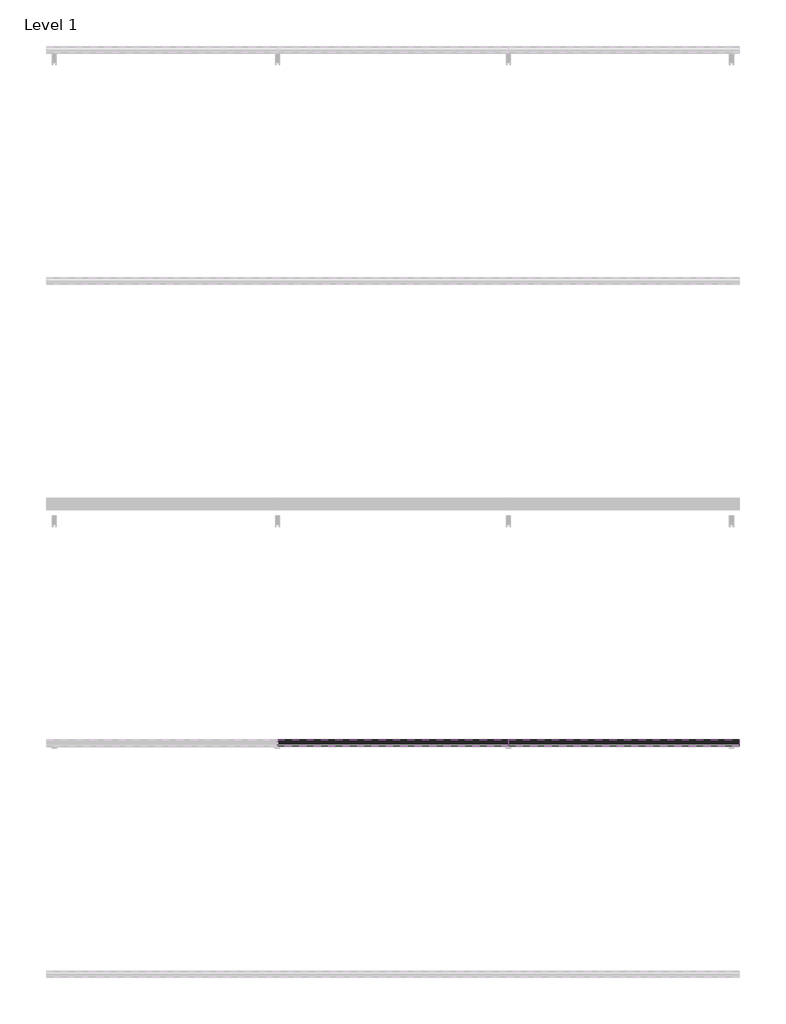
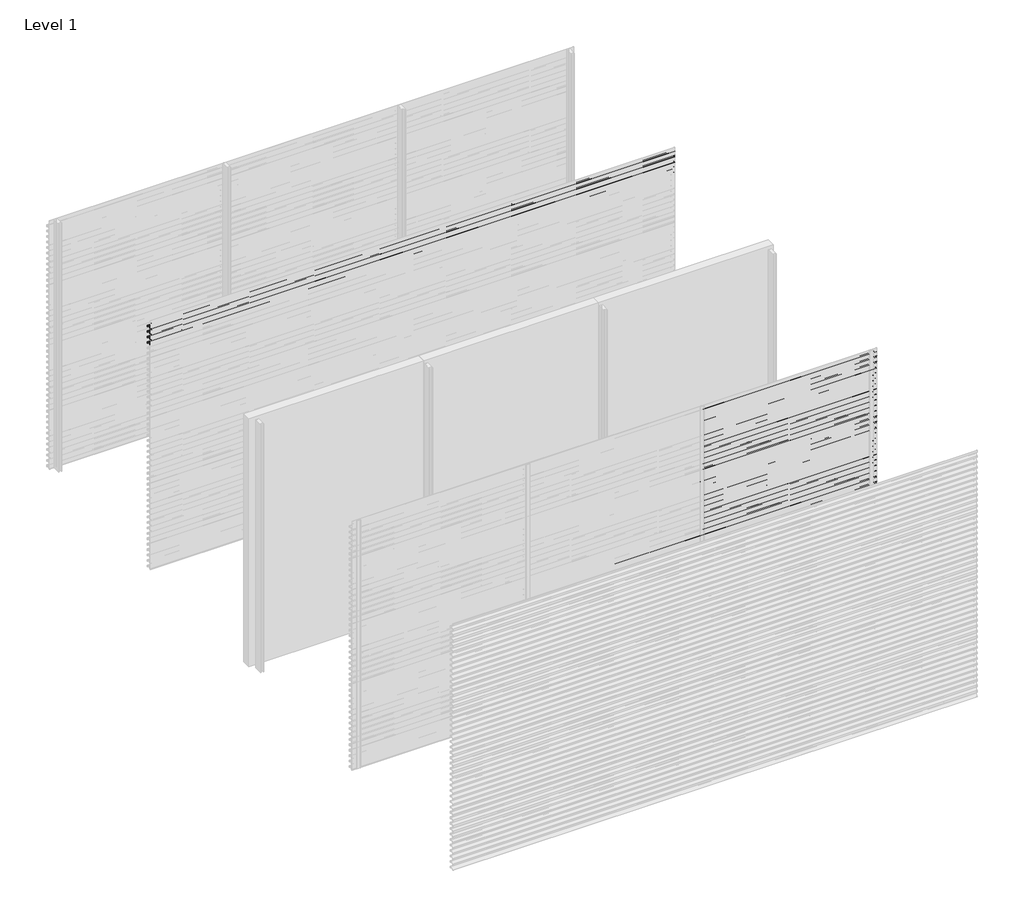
# One storey, part 17 of 27: 71 proxies.
"""IFC4 building model written with IfcOpenShell, lengths in millimetres."""

from ifc_helpers import new_model, si_unit, frame, origin, place, context, project, spatial, polyline, outline, extrude, element, save

model = new_model("IFC4")

# Units and contexts
model_context = context("Model", 3, world=origin())
ifc_project = project(units=[si_unit("LENGTHUNIT", "METRE", prefix="MILLI")], contexts=[model_context])

# Site, building, storey
site = spatial("IfcSite", under=ifc_project)
building = spatial("IfcBuilding", under=site)
storey = spatial("IfcBuildingStorey", under=building, Name="Level 1", Elevation=0.0)

# Proxies
placement = place(None, origin())
element("IfcBuildingElementProxy", 1, Name="Wall Sweeps", at=placement, inside=storey, context=model_context, shape_type="SweptSolid", body=[
    extrude(outline(polyline([(-19943.0, 2913.2), (-19943.0, 2893.5), (-19944.25, 2894.5866084), (-19944.25, 2912.4872415), (-19963.0322086, 2925.6010889), (-19995.1332975, 2893.5), (-19996.0525363, 2894.4192388), (-19964.1148087, 2926.3569665), (-19998.0, 2950.0158044), (-19998.0, 2970.0), (-19996.75, 2970.0), (-19996.75, 2950.7285629), (-19943.0, 2913.2)])), frame((0.0, 0.0, 0.0), z_axis=(1.0, 0.0, 0.0), x_axis=(0.0, 1.0, 0.0)), (0.0, 0.0, 1.0), 6000.0),
])
element("IfcBuildingElementProxy", 2, Name="Wall Sweeps", at=placement, inside=storey, context=model_context, shape_type="SweptSolid", body=[
    extrude(outline(polyline([(-19943.0, 2847.2), (-19943.0, 2827.5), (-19944.25, 2828.5866084), (-19944.25, 2846.4872415), (-19963.0322086, 2859.6010889), (-19995.1332975, 2827.5), (-19996.0525363, 2828.4192388), (-19964.1148087, 2860.3569665), (-19998.0, 2884.0158044), (-19998.0, 2904.0), (-19996.75, 2904.0), (-19996.75, 2884.7285629), (-19943.0, 2847.2)])), frame((0.0, 0.0, 0.0), z_axis=(1.0, 0.0, 0.0), x_axis=(0.0, 1.0, 0.0)), (0.0, 0.0, 1.0), 6000.0),
])
element("IfcBuildingElementProxy", 3, Name="Wall Sweeps", at=placement, inside=storey, context=model_context, shape_type="SweptSolid", body=[
    extrude(outline(polyline([(-19943.0, 2781.2), (-19943.0, 2761.5), (-19944.25, 2762.5866084), (-19944.25, 2780.4872415), (-19963.0322086, 2793.6010889), (-19995.1332975, 2761.5), (-19996.0525363, 2762.4192388), (-19964.1148087, 2794.3569665), (-19998.0, 2818.0158044), (-19998.0, 2838.0), (-19996.75, 2838.0), (-19996.75, 2818.7285629), (-19943.0, 2781.2)])), frame((0.0, 0.0, 0.0), z_axis=(1.0, 0.0, 0.0), x_axis=(0.0, 1.0, 0.0)), (0.0, 0.0, 1.0), 6000.0),
])
element("IfcBuildingElementProxy", 4, Name="Wall Sweeps", at=placement, inside=storey, context=model_context, shape_type="SweptSolid", body=[
    extrude(outline(polyline([(-19943.0, 2715.2), (-19943.0, 2695.5), (-19944.25, 2696.5866084), (-19944.25, 2714.4872415), (-19963.0322086, 2727.6010889), (-19995.1332975, 2695.5), (-19996.0525363, 2696.4192388), (-19964.1148087, 2728.3569665), (-19998.0, 2752.0158044), (-19998.0, 2772.0), (-19996.75, 2772.0), (-19996.75, 2752.7285629), (-19943.0, 2715.2)])), frame((0.0, 0.0, 0.0), z_axis=(1.0, 0.0, 0.0), x_axis=(0.0, 1.0, 0.0)), (0.0, 0.0, 1.0), 6000.0),
])
element("IfcBuildingElementProxy", 5, Name="Wall Sweeps", at=placement, inside=storey, context=model_context, shape_type="SweptSolid", body=[
    extrude(outline(polyline([(-23943.0, 1395.2), (-23943.0, 1375.5), (-23944.25, 1376.5866084), (-23944.25, 1394.4872415), (-23963.0322086, 1407.6010889), (-23995.1332975, 1375.5), (-23996.0525363, 1376.4192388), (-23964.1148087, 1408.3569665), (-23998.0, 1432.0158044), (-23998.0, 1452.0), (-23996.75, 1452.0), (-23996.75, 1432.7285629), (-23943.0, 1395.2)])), frame((2000.0, 0.0, 0.0), z_axis=(1.0, 0.0, 0.0), x_axis=(0.0, 1.0, 0.0)), (0.0, 0.0, 1.0), 2000.0),
])
element("IfcBuildingElementProxy", 6, Name="Wall Sweeps", at=placement, inside=storey, context=model_context, shape_type="SweptSolid", body=[
    extrude(outline(polyline([(-23943.0, 1329.2), (-23943.0, 1309.5), (-23944.25, 1310.5866084), (-23944.25, 1328.4872415), (-23963.0322086, 1341.6010889), (-23995.1332975, 1309.5), (-23996.0525363, 1310.4192388), (-23964.1148087, 1342.3569665), (-23998.0, 1366.0158044), (-23998.0, 1386.0), (-23996.75, 1386.0), (-23996.75, 1366.7285629), (-23943.0, 1329.2)])), frame((2000.0, 0.0, 0.0), z_axis=(1.0, 0.0, 0.0), x_axis=(0.0, 1.0, 0.0)), (0.0, 0.0, 1.0), 2000.0),
])
element("IfcBuildingElementProxy", 7, Name="Wall Sweeps", at=placement, inside=storey, context=model_context, shape_type="SweptSolid", body=[
    extrude(outline(polyline([(-23943.0, 1263.2), (-23943.0, 1243.5), (-23944.25, 1244.5866084), (-23944.25, 1262.4872415), (-23963.0322086, 1275.6010889), (-23995.1332975, 1243.5), (-23996.0525363, 1244.4192388), (-23964.1148087, 1276.3569665), (-23998.0, 1300.0158044), (-23998.0, 1320.0), (-23996.75, 1320.0), (-23996.75, 1300.7285629), (-23943.0, 1263.2)])), frame((2000.0, 0.0, 0.0), z_axis=(1.0, 0.0, 0.0), x_axis=(0.0, 1.0, 0.0)), (0.0, 0.0, 1.0), 2000.0),
])
element("IfcBuildingElementProxy", 8, Name="Wall Sweeps", at=placement, inside=storey, context=model_context, shape_type="SweptSolid", body=[
    extrude(outline(polyline([(-23943.0, 1197.2), (-23943.0, 1177.5), (-23944.25, 1178.5866084), (-23944.25, 1196.4872415), (-23963.0322086, 1209.6010889), (-23995.1332975, 1177.5), (-23996.0525363, 1178.4192388), (-23964.1148087, 1210.3569665), (-23998.0, 1234.0158044), (-23998.0, 1254.0), (-23996.75, 1254.0), (-23996.75, 1234.7285629), (-23943.0, 1197.2)])), frame((2000.0, 0.0, 0.0), z_axis=(1.0, 0.0, 0.0), x_axis=(0.0, 1.0, 0.0)), (0.0, 0.0, 1.0), 2000.0),
])
element("IfcBuildingElementProxy", 9, Name="Wall Sweeps", at=placement, inside=storey, context=model_context, shape_type="SweptSolid", body=[
    extrude(outline(polyline([(-23943.0, 1131.2), (-23943.0, 1111.5), (-23944.25, 1112.5866084), (-23944.25, 1130.4872415), (-23963.0322086, 1143.6010889), (-23995.1332975, 1111.5), (-23996.0525363, 1112.4192388), (-23964.1148087, 1144.3569665), (-23998.0, 1168.0158044), (-23998.0, 1188.0), (-23996.75, 1188.0), (-23996.75, 1168.7285629), (-23943.0, 1131.2)])), frame((2000.0, 0.0, 0.0), z_axis=(1.0, 0.0, 0.0), x_axis=(0.0, 1.0, 0.0)), (0.0, 0.0, 1.0), 2000.0),
])
element("IfcBuildingElementProxy", 10, Name="Wall Sweeps", at=placement, inside=storey, context=model_context, shape_type="SweptSolid", body=[
    extrude(outline(polyline([(-23943.0, 1065.2), (-23943.0, 1045.5), (-23944.25, 1046.5866084), (-23944.25, 1064.4872415), (-23963.0322086, 1077.6010889), (-23995.1332975, 1045.5), (-23996.0525363, 1046.4192388), (-23964.1148087, 1078.3569665), (-23998.0, 1102.0158044), (-23998.0, 1122.0), (-23996.75, 1122.0), (-23996.75, 1102.7285629), (-23943.0, 1065.2)])), frame((2000.0, 0.0, 0.0), z_axis=(1.0, 0.0, 0.0), x_axis=(0.0, 1.0, 0.0)), (0.0, 0.0, 1.0), 2000.0),
])
element("IfcBuildingElementProxy", 11, Name="Wall Sweeps", at=placement, inside=storey, context=model_context, shape_type="SweptSolid", body=[
    extrude(outline(polyline([(-23943.0, 999.2), (-23943.0, 979.5), (-23944.25, 980.5866084), (-23944.25, 998.4872415), (-23963.0322086, 1011.6010889), (-23995.1332975, 979.5), (-23996.0525363, 980.4192388), (-23964.1148087, 1012.3569665), (-23998.0, 1036.0158044), (-23998.0, 1056.0), (-23996.75, 1056.0), (-23996.75, 1036.7285629), (-23943.0, 999.2)])), frame((2000.0, 0.0, 0.0), z_axis=(1.0, 0.0, 0.0), x_axis=(0.0, 1.0, 0.0)), (0.0, 0.0, 1.0), 2000.0),
])
element("IfcBuildingElementProxy", 12, Name="Wall Sweeps", at=placement, inside=storey, context=model_context, shape_type="SweptSolid", body=[
    extrude(outline(polyline([(-23943.0, 933.2), (-23943.0, 913.5), (-23944.25, 914.5866084), (-23944.25, 932.4872415), (-23963.0322086, 945.6010889), (-23995.1332975, 913.5), (-23996.0525363, 914.4192388), (-23964.1148087, 946.3569665), (-23998.0, 970.0158044), (-23998.0, 990.0), (-23996.75, 990.0), (-23996.75, 970.7285629), (-23943.0, 933.2)])), frame((2000.0, 0.0, 0.0), z_axis=(1.0, 0.0, 0.0), x_axis=(0.0, 1.0, 0.0)), (0.0, 0.0, 1.0), 2000.0),
])
element("IfcBuildingElementProxy", 13, Name="Wall Sweeps", at=placement, inside=storey, context=model_context, shape_type="SweptSolid", body=[
    extrude(outline(polyline([(-23943.0, 867.2), (-23943.0, 847.5), (-23944.25, 848.5866084), (-23944.25, 866.4872415), (-23963.0322086, 879.6010889), (-23995.1332975, 847.5), (-23996.0525363, 848.4192388), (-23964.1148087, 880.3569665), (-23998.0, 904.0158044), (-23998.0, 924.0), (-23996.75, 924.0), (-23996.75, 904.7285629), (-23943.0, 867.2)])), frame((2000.0, 0.0, 0.0), z_axis=(1.0, 0.0, 0.0), x_axis=(0.0, 1.0, 0.0)), (0.0, 0.0, 1.0), 2000.0),
])
element("IfcBuildingElementProxy", 14, Name="Wall Sweeps", at=placement, inside=storey, context=model_context, shape_type="SweptSolid", body=[
    extrude(outline(polyline([(-23943.0, 801.2), (-23943.0, 781.5), (-23944.25, 782.5866084), (-23944.25, 800.4872415), (-23963.0322086, 813.6010889), (-23995.1332975, 781.5), (-23996.0525363, 782.4192388), (-23964.1148087, 814.3569665), (-23998.0, 838.0158044), (-23998.0, 858.0), (-23996.75, 858.0), (-23996.75, 838.7285629), (-23943.0, 801.2)])), frame((2000.0, 0.0, 0.0), z_axis=(1.0, 0.0, 0.0), x_axis=(0.0, 1.0, 0.0)), (0.0, 0.0, 1.0), 2000.0),
])
element("IfcBuildingElementProxy", 15, Name="Wall Sweeps", at=placement, inside=storey, context=model_context, shape_type="SweptSolid", body=[
    extrude(outline(polyline([(-23943.0, 735.2), (-23943.0, 715.5), (-23944.25, 716.5866084), (-23944.25, 734.4872415), (-23963.0322086, 747.6010889), (-23995.1332975, 715.5), (-23996.0525363, 716.4192388), (-23964.1148087, 748.3569665), (-23998.0, 772.0158044), (-23998.0, 792.0), (-23996.75, 792.0), (-23996.75, 772.7285629), (-23943.0, 735.2)])), frame((2000.0, 0.0, 0.0), z_axis=(1.0, 0.0, 0.0), x_axis=(0.0, 1.0, 0.0)), (0.0, 0.0, 1.0), 2000.0),
])
element("IfcBuildingElementProxy", 16, Name="Wall Sweeps", at=placement, inside=storey, context=model_context, shape_type="SweptSolid", body=[
    extrude(outline(polyline([(-23943.0, 669.2), (-23943.0, 649.5), (-23944.25, 650.5866084), (-23944.25, 668.4872415), (-23963.0322086, 681.6010889), (-23995.1332975, 649.5), (-23996.0525363, 650.4192388), (-23964.1148087, 682.3569665), (-23998.0, 706.0158044), (-23998.0, 726.0), (-23996.75, 726.0), (-23996.75, 706.7285629), (-23943.0, 669.2)])), frame((2000.0, 0.0, 0.0), z_axis=(1.0, 0.0, 0.0), x_axis=(0.0, 1.0, 0.0)), (0.0, 0.0, 1.0), 2000.0),
])
element("IfcBuildingElementProxy", 17, Name="Wall Sweeps", at=placement, inside=storey, context=model_context, shape_type="SweptSolid", body=[
    extrude(outline(polyline([(-23943.0, 603.2), (-23943.0, 583.5), (-23944.25, 584.5866084), (-23944.25, 602.4872415), (-23963.0322086, 615.6010889), (-23995.1332975, 583.5), (-23996.0525363, 584.4192388), (-23964.1148087, 616.3569665), (-23998.0, 640.0158044), (-23998.0, 660.0), (-23996.75, 660.0), (-23996.75, 640.7285629), (-23943.0, 603.2)])), frame((2000.0, 0.0, 0.0), z_axis=(1.0, 0.0, 0.0), x_axis=(0.0, 1.0, 0.0)), (0.0, 0.0, 1.0), 2000.0),
])
element("IfcBuildingElementProxy", 18, Name="Wall Sweeps", at=placement, inside=storey, context=model_context, shape_type="SweptSolid", body=[
    extrude(outline(polyline([(-23943.0, 537.2), (-23943.0, 517.5), (-23944.25, 518.5866084), (-23944.25, 536.4872415), (-23963.0322086, 549.6010889), (-23995.1332975, 517.5), (-23996.0525363, 518.4192388), (-23964.1148087, 550.3569665), (-23998.0, 574.0158044), (-23998.0, 594.0), (-23996.75, 594.0), (-23996.75, 574.7285629), (-23943.0, 537.2)])), frame((2000.0, 0.0, 0.0), z_axis=(1.0, 0.0, 0.0), x_axis=(0.0, 1.0, 0.0)), (0.0, 0.0, 1.0), 2000.0),
])
element("IfcBuildingElementProxy", 19, Name="Wall Sweeps", at=placement, inside=storey, context=model_context, shape_type="SweptSolid", body=[
    extrude(outline(polyline([(-23943.0, 471.2), (-23943.0, 451.5), (-23944.25, 452.5866084), (-23944.25, 470.4872415), (-23963.0322086, 483.6010889), (-23995.1332975, 451.5), (-23996.0525363, 452.4192388), (-23964.1148087, 484.3569665), (-23998.0, 508.0158044), (-23998.0, 528.0), (-23996.75, 528.0), (-23996.75, 508.7285629), (-23943.0, 471.2)])), frame((2000.0, 0.0, 0.0), z_axis=(1.0, 0.0, 0.0), x_axis=(0.0, 1.0, 0.0)), (0.0, 0.0, 1.0), 2000.0),
])
element("IfcBuildingElementProxy", 20, Name="Wall Sweeps", at=placement, inside=storey, context=model_context, shape_type="SweptSolid", body=[
    extrude(outline(polyline([(-23943.0, 405.2), (-23943.0, 385.5), (-23944.25, 386.5866084), (-23944.25, 404.4872415), (-23963.0322086, 417.6010889), (-23995.1332975, 385.5), (-23996.0525363, 386.4192388), (-23964.1148087, 418.3569665), (-23998.0, 442.0158044), (-23998.0, 462.0), (-23996.75, 462.0), (-23996.75, 442.7285629), (-23943.0, 405.2)])), frame((2000.0, 0.0, 0.0), z_axis=(1.0, 0.0, 0.0), x_axis=(0.0, 1.0, 0.0)), (0.0, 0.0, 1.0), 2000.0),
])
element("IfcBuildingElementProxy", 21, Name="Wall Sweeps", at=placement, inside=storey, context=model_context, shape_type="SweptSolid", body=[
    extrude(outline(polyline([(-23943.0, 339.2), (-23943.0, 319.5), (-23944.25, 320.5866084), (-23944.25, 338.4872415), (-23963.0322086, 351.6010889), (-23995.1332975, 319.5), (-23996.0525363, 320.4192388), (-23964.1148087, 352.3569665), (-23998.0, 376.0158044), (-23998.0, 396.0), (-23996.75, 396.0), (-23996.75, 376.7285629), (-23943.0, 339.2)])), frame((2000.0, 0.0, 0.0), z_axis=(1.0, 0.0, 0.0), x_axis=(0.0, 1.0, 0.0)), (0.0, 0.0, 1.0), 2000.0),
])
element("IfcBuildingElementProxy", 22, Name="Wall Sweeps", at=placement, inside=storey, context=model_context, shape_type="SweptSolid", body=[
    extrude(outline(polyline([(-23943.0, 273.2), (-23943.0, 253.5), (-23944.25, 254.5866084), (-23944.25, 272.4872415), (-23963.0322086, 285.6010889), (-23995.1332975, 253.5), (-23996.0525363, 254.4192388), (-23964.1148087, 286.3569665), (-23998.0, 310.0158044), (-23998.0, 330.0), (-23996.75, 330.0), (-23996.75, 310.7285629), (-23943.0, 273.2)])), frame((2000.0, 0.0, 0.0), z_axis=(1.0, 0.0, 0.0), x_axis=(0.0, 1.0, 0.0)), (0.0, 0.0, 1.0), 2000.0),
])
element("IfcBuildingElementProxy", 23, Name="Wall Sweeps", at=placement, inside=storey, context=model_context, shape_type="SweptSolid", body=[
    extrude(outline(polyline([(-23943.0, 207.2), (-23943.0, 187.5), (-23944.25, 188.5866084), (-23944.25, 206.4872415), (-23963.0322086, 219.6010889), (-23995.1332975, 187.5), (-23996.0525363, 188.4192388), (-23964.1148087, 220.3569665), (-23998.0, 244.0158044), (-23998.0, 264.0), (-23996.75, 264.0), (-23996.75, 244.7285629), (-23943.0, 207.2)])), frame((2000.0, 0.0, 0.0), z_axis=(1.0, 0.0, 0.0), x_axis=(0.0, 1.0, 0.0)), (0.0, 0.0, 1.0), 2000.0),
])
element("IfcBuildingElementProxy", 24, Name="Wall Sweeps", at=placement, inside=storey, context=model_context, shape_type="SweptSolid", body=[
    extrude(outline(polyline([(-23943.0, 141.2), (-23943.0, 121.5), (-23944.25, 122.5866084), (-23944.25, 140.4872415), (-23963.0322086, 153.6010889), (-23995.1332975, 121.5), (-23996.0525363, 122.4192388), (-23964.1148087, 154.3569665), (-23998.0, 178.0158044), (-23998.0, 198.0), (-23996.75, 198.0), (-23996.75, 178.7285629), (-23943.0, 141.2)])), frame((2000.0, 0.0, 0.0), z_axis=(1.0, 0.0, 0.0), x_axis=(0.0, 1.0, 0.0)), (0.0, 0.0, 1.0), 2000.0),
])
element("IfcBuildingElementProxy", 25, Name="Wall Sweeps", at=placement, inside=storey, context=model_context, shape_type="SweptSolid", body=[
    extrude(outline(polyline([(-23943.0, 75.2), (-23943.0, 55.5), (-23944.25, 56.5866084), (-23944.25, 74.4872415), (-23963.0322086, 87.6010889), (-23995.1332975, 55.5), (-23996.0525363, 56.4192388), (-23964.1148087, 88.3569665), (-23998.0, 112.0158044), (-23998.0, 132.0), (-23996.75, 132.0), (-23996.75, 112.7285629), (-23943.0, 75.2)])), frame((2000.0, 0.0, 0.0), z_axis=(1.0, 0.0, 0.0), x_axis=(0.0, 1.0, 0.0)), (0.0, 0.0, 1.0), 2000.0),
])
element("IfcBuildingElementProxy", 26, Name="Wall Sweeps", at=placement, inside=storey, context=model_context, shape_type="SweptSolid", body=[
    extrude(outline(polyline([(-23943.0, 9.2), (-23943.0, -10.5), (-23944.25, -9.4133916), (-23944.25, 8.4872415), (-23963.0322086, 21.6010889), (-23995.1332975, -10.5), (-23996.0525363, -9.5807612), (-23964.1148087, 22.3569665), (-23998.0, 46.0158044), (-23998.0, 66.0), (-23996.75, 66.0), (-23996.75, 46.7285629), (-23943.0, 9.2)])), frame((2000.0, 0.0, 0.0), z_axis=(1.0, 0.0, 0.0), x_axis=(0.0, 1.0, 0.0)), (0.0, 0.0, 1.0), 2000.0),
])
element("IfcBuildingElementProxy", 27, Name="Wall Sweeps", at=placement, inside=storey, context=model_context, shape_type="SweptSolid", body=[
    extrude(outline(polyline([(-23943.0, 2913.2), (-23943.0, 2893.5), (-23944.25, 2894.5866084), (-23944.25, 2912.4872415), (-23963.0322086, 2925.6010889), (-23995.1332975, 2893.5), (-23996.0525363, 2894.4192388), (-23964.1148087, 2926.3569665), (-23998.0, 2950.0158044), (-23998.0, 2970.0), (-23996.75, 2970.0), (-23996.75, 2950.7285629), (-23943.0, 2913.2)])), frame((4000.0, 0.0, 0.0), z_axis=(1.0, 0.0, 0.0), x_axis=(0.0, 1.0, 0.0)), (0.0, 0.0, 1.0), 2000.0),
])
element("IfcBuildingElementProxy", 28, Name="Wall Sweeps", at=placement, inside=storey, context=model_context, shape_type="SweptSolid", body=[
    extrude(outline(polyline([(-23943.0, 2847.2), (-23943.0, 2827.5), (-23944.25, 2828.5866084), (-23944.25, 2846.4872415), (-23963.0322086, 2859.6010889), (-23995.1332975, 2827.5), (-23996.0525363, 2828.4192388), (-23964.1148087, 2860.3569665), (-23998.0, 2884.0158044), (-23998.0, 2904.0), (-23996.75, 2904.0), (-23996.75, 2884.7285629), (-23943.0, 2847.2)])), frame((4000.0, 0.0, 0.0), z_axis=(1.0, 0.0, 0.0), x_axis=(0.0, 1.0, 0.0)), (0.0, 0.0, 1.0), 2000.0),
])
element("IfcBuildingElementProxy", 29, Name="Wall Sweeps", at=placement, inside=storey, context=model_context, shape_type="SweptSolid", body=[
    extrude(outline(polyline([(-23943.0, 2781.2), (-23943.0, 2761.5), (-23944.25, 2762.5866084), (-23944.25, 2780.4872415), (-23963.0322086, 2793.6010889), (-23995.1332975, 2761.5), (-23996.0525363, 2762.4192388), (-23964.1148087, 2794.3569665), (-23998.0, 2818.0158044), (-23998.0, 2838.0), (-23996.75, 2838.0), (-23996.75, 2818.7285629), (-23943.0, 2781.2)])), frame((4000.0, 0.0, 0.0), z_axis=(1.0, 0.0, 0.0), x_axis=(0.0, 1.0, 0.0)), (0.0, 0.0, 1.0), 2000.0),
])
element("IfcBuildingElementProxy", 30, Name="Wall Sweeps", at=placement, inside=storey, context=model_context, shape_type="SweptSolid", body=[
    extrude(outline(polyline([(-23943.0, 2715.2), (-23943.0, 2695.5), (-23944.25, 2696.5866084), (-23944.25, 2714.4872415), (-23963.0322086, 2727.6010889), (-23995.1332975, 2695.5), (-23996.0525363, 2696.4192388), (-23964.1148087, 2728.3569665), (-23998.0, 2752.0158044), (-23998.0, 2772.0), (-23996.75, 2772.0), (-23996.75, 2752.7285629), (-23943.0, 2715.2)])), frame((4000.0, 0.0, 0.0), z_axis=(1.0, 0.0, 0.0), x_axis=(0.0, 1.0, 0.0)), (0.0, 0.0, 1.0), 2000.0),
])
element("IfcBuildingElementProxy", 31, Name="Wall Sweeps", at=placement, inside=storey, context=model_context, shape_type="SweptSolid", body=[
    extrude(outline(polyline([(-23943.0, 2649.2), (-23943.0, 2629.5), (-23944.25, 2630.5866084), (-23944.25, 2648.4872415), (-23963.0322086, 2661.6010889), (-23995.1332975, 2629.5), (-23996.0525363, 2630.4192388), (-23964.1148087, 2662.3569665), (-23998.0, 2686.0158044), (-23998.0, 2706.0), (-23996.75, 2706.0), (-23996.75, 2686.7285629), (-23943.0, 2649.2)])), frame((4000.0, 0.0, 0.0), z_axis=(1.0, 0.0, 0.0), x_axis=(0.0, 1.0, 0.0)), (0.0, 0.0, 1.0), 2000.0),
])
element("IfcBuildingElementProxy", 32, Name="Wall Sweeps", at=placement, inside=storey, context=model_context, shape_type="SweptSolid", body=[
    extrude(outline(polyline([(-23943.0, 2583.2), (-23943.0, 2563.5), (-23944.25, 2564.5866084), (-23944.25, 2582.4872415), (-23963.0322086, 2595.6010889), (-23995.1332975, 2563.5), (-23996.0525363, 2564.4192388), (-23964.1148087, 2596.3569665), (-23998.0, 2620.0158044), (-23998.0, 2640.0), (-23996.75, 2640.0), (-23996.75, 2620.7285629), (-23943.0, 2583.2)])), frame((4000.0, 0.0, 0.0), z_axis=(1.0, 0.0, 0.0), x_axis=(0.0, 1.0, 0.0)), (0.0, 0.0, 1.0), 2000.0),
])
element("IfcBuildingElementProxy", 33, Name="Wall Sweeps", at=placement, inside=storey, context=model_context, shape_type="SweptSolid", body=[
    extrude(outline(polyline([(-23943.0, 2517.2), (-23943.0, 2497.5), (-23944.25, 2498.5866084), (-23944.25, 2516.4872415), (-23963.0322086, 2529.6010889), (-23995.1332975, 2497.5), (-23996.0525363, 2498.4192388), (-23964.1148087, 2530.3569665), (-23998.0, 2554.0158044), (-23998.0, 2574.0), (-23996.75, 2574.0), (-23996.75, 2554.7285629), (-23943.0, 2517.2)])), frame((4000.0, 0.0, 0.0), z_axis=(1.0, 0.0, 0.0), x_axis=(0.0, 1.0, 0.0)), (0.0, 0.0, 1.0), 2000.0),
])
element("IfcBuildingElementProxy", 34, Name="Wall Sweeps", at=placement, inside=storey, context=model_context, shape_type="SweptSolid", body=[
    extrude(outline(polyline([(-23943.0, 2451.2), (-23943.0, 2431.5), (-23944.25, 2432.5866084), (-23944.25, 2450.4872415), (-23963.0322086, 2463.6010889), (-23995.1332975, 2431.5), (-23996.0525363, 2432.4192388), (-23964.1148087, 2464.3569665), (-23998.0, 2488.0158044), (-23998.0, 2508.0), (-23996.75, 2508.0), (-23996.75, 2488.7285629), (-23943.0, 2451.2)])), frame((4000.0, 0.0, 0.0), z_axis=(1.0, 0.0, 0.0), x_axis=(0.0, 1.0, 0.0)), (0.0, 0.0, 1.0), 2000.0),
])
element("IfcBuildingElementProxy", 35, Name="Wall Sweeps", at=placement, inside=storey, context=model_context, shape_type="SweptSolid", body=[
    extrude(outline(polyline([(-23943.0, 2385.2), (-23943.0, 2365.5), (-23944.25, 2366.5866084), (-23944.25, 2384.4872415), (-23963.0322086, 2397.6010889), (-23995.1332975, 2365.5), (-23996.0525363, 2366.4192388), (-23964.1148087, 2398.3569665), (-23998.0, 2422.0158044), (-23998.0, 2442.0), (-23996.75, 2442.0), (-23996.75, 2422.7285629), (-23943.0, 2385.2)])), frame((4000.0, 0.0, 0.0), z_axis=(1.0, 0.0, 0.0), x_axis=(0.0, 1.0, 0.0)), (0.0, 0.0, 1.0), 2000.0),
])
element("IfcBuildingElementProxy", 36, Name="Wall Sweeps", at=placement, inside=storey, context=model_context, shape_type="SweptSolid", body=[
    extrude(outline(polyline([(-23943.0, 2319.2), (-23943.0, 2299.5), (-23944.25, 2300.5866084), (-23944.25, 2318.4872415), (-23963.0322086, 2331.6010889), (-23995.1332975, 2299.5), (-23996.0525363, 2300.4192388), (-23964.1148087, 2332.3569665), (-23998.0, 2356.0158044), (-23998.0, 2376.0), (-23996.75, 2376.0), (-23996.75, 2356.7285629), (-23943.0, 2319.2)])), frame((4000.0, 0.0, 0.0), z_axis=(1.0, 0.0, 0.0), x_axis=(0.0, 1.0, 0.0)), (0.0, 0.0, 1.0), 2000.0),
])
element("IfcBuildingElementProxy", 37, Name="Wall Sweeps", at=placement, inside=storey, context=model_context, shape_type="SweptSolid", body=[
    extrude(outline(polyline([(-23943.0, 2253.2), (-23943.0, 2233.5), (-23944.25, 2234.5866084), (-23944.25, 2252.4872415), (-23963.0322086, 2265.6010889), (-23995.1332975, 2233.5), (-23996.0525363, 2234.4192388), (-23964.1148087, 2266.3569665), (-23998.0, 2290.0158044), (-23998.0, 2310.0), (-23996.75, 2310.0), (-23996.75, 2290.7285629), (-23943.0, 2253.2)])), frame((4000.0, 0.0, 0.0), z_axis=(1.0, 0.0, 0.0), x_axis=(0.0, 1.0, 0.0)), (0.0, 0.0, 1.0), 2000.0),
])
element("IfcBuildingElementProxy", 38, Name="Wall Sweeps", at=placement, inside=storey, context=model_context, shape_type="SweptSolid", body=[
    extrude(outline(polyline([(-23943.0, 2187.2), (-23943.0, 2167.5), (-23944.25, 2168.5866084), (-23944.25, 2186.4872415), (-23963.0322086, 2199.6010889), (-23995.1332975, 2167.5), (-23996.0525363, 2168.4192388), (-23964.1148087, 2200.3569665), (-23998.0, 2224.0158044), (-23998.0, 2244.0), (-23996.75, 2244.0), (-23996.75, 2224.7285629), (-23943.0, 2187.2)])), frame((4000.0, 0.0, 0.0), z_axis=(1.0, 0.0, 0.0), x_axis=(0.0, 1.0, 0.0)), (0.0, 0.0, 1.0), 2000.0),
])
element("IfcBuildingElementProxy", 39, Name="Wall Sweeps", at=placement, inside=storey, context=model_context, shape_type="SweptSolid", body=[
    extrude(outline(polyline([(-23943.0, 2121.2), (-23943.0, 2101.5), (-23944.25, 2102.5866084), (-23944.25, 2120.4872415), (-23963.0322086, 2133.6010889), (-23995.1332975, 2101.5), (-23996.0525363, 2102.4192388), (-23964.1148087, 2134.3569665), (-23998.0, 2158.0158044), (-23998.0, 2178.0), (-23996.75, 2178.0), (-23996.75, 2158.7285629), (-23943.0, 2121.2)])), frame((4000.0, 0.0, 0.0), z_axis=(1.0, 0.0, 0.0), x_axis=(0.0, 1.0, 0.0)), (0.0, 0.0, 1.0), 2000.0),
])
element("IfcBuildingElementProxy", 40, Name="Wall Sweeps", at=placement, inside=storey, context=model_context, shape_type="SweptSolid", body=[
    extrude(outline(polyline([(-23943.0, 2055.2), (-23943.0, 2035.5), (-23944.25, 2036.5866084), (-23944.25, 2054.4872415), (-23963.0322086, 2067.6010889), (-23995.1332975, 2035.5), (-23996.0525363, 2036.4192388), (-23964.1148087, 2068.3569665), (-23998.0, 2092.0158044), (-23998.0, 2112.0), (-23996.75, 2112.0), (-23996.75, 2092.7285629), (-23943.0, 2055.2)])), frame((4000.0, 0.0, 0.0), z_axis=(1.0, 0.0, 0.0), x_axis=(0.0, 1.0, 0.0)), (0.0, 0.0, 1.0), 2000.0),
])
element("IfcBuildingElementProxy", 41, Name="Wall Sweeps", at=placement, inside=storey, context=model_context, shape_type="SweptSolid", body=[
    extrude(outline(polyline([(-23943.0, 1989.2), (-23943.0, 1969.5), (-23944.25, 1970.5866084), (-23944.25, 1988.4872415), (-23963.0322086, 2001.6010889), (-23995.1332975, 1969.5), (-23996.0525363, 1970.4192388), (-23964.1148087, 2002.3569665), (-23998.0, 2026.0158044), (-23998.0, 2046.0), (-23996.75, 2046.0), (-23996.75, 2026.7285629), (-23943.0, 1989.2)])), frame((4000.0, 0.0, 0.0), z_axis=(1.0, 0.0, 0.0), x_axis=(0.0, 1.0, 0.0)), (0.0, 0.0, 1.0), 2000.0),
])
element("IfcBuildingElementProxy", 42, Name="Wall Sweeps", at=placement, inside=storey, context=model_context, shape_type="SweptSolid", body=[
    extrude(outline(polyline([(-23943.0, 1923.2), (-23943.0, 1903.5), (-23944.25, 1904.5866084), (-23944.25, 1922.4872415), (-23963.0322086, 1935.6010889), (-23995.1332975, 1903.5), (-23996.0525363, 1904.4192388), (-23964.1148087, 1936.3569665), (-23998.0, 1960.0158044), (-23998.0, 1980.0), (-23996.75, 1980.0), (-23996.75, 1960.7285629), (-23943.0, 1923.2)])), frame((4000.0, 0.0, 0.0), z_axis=(1.0, 0.0, 0.0), x_axis=(0.0, 1.0, 0.0)), (0.0, 0.0, 1.0), 2000.0),
])
element("IfcBuildingElementProxy", 43, Name="Wall Sweeps", at=placement, inside=storey, context=model_context, shape_type="SweptSolid", body=[
    extrude(outline(polyline([(-23943.0, 1857.2), (-23943.0, 1837.5), (-23944.25, 1838.5866084), (-23944.25, 1856.4872415), (-23963.0322086, 1869.6010889), (-23995.1332975, 1837.5), (-23996.0525363, 1838.4192388), (-23964.1148087, 1870.3569665), (-23998.0, 1894.0158044), (-23998.0, 1914.0), (-23996.75, 1914.0), (-23996.75, 1894.7285629), (-23943.0, 1857.2)])), frame((4000.0, 0.0, 0.0), z_axis=(1.0, 0.0, 0.0), x_axis=(0.0, 1.0, 0.0)), (0.0, 0.0, 1.0), 2000.0),
])
element("IfcBuildingElementProxy", 44, Name="Wall Sweeps", at=placement, inside=storey, context=model_context, shape_type="SweptSolid", body=[
    extrude(outline(polyline([(-23943.0, 1791.2), (-23943.0, 1771.5), (-23944.25, 1772.5866084), (-23944.25, 1790.4872415), (-23963.0322086, 1803.6010889), (-23995.1332975, 1771.5), (-23996.0525363, 1772.4192388), (-23964.1148087, 1804.3569665), (-23998.0, 1828.0158044), (-23998.0, 1848.0), (-23996.75, 1848.0), (-23996.75, 1828.7285629), (-23943.0, 1791.2)])), frame((4000.0, 0.0, 0.0), z_axis=(1.0, 0.0, 0.0), x_axis=(0.0, 1.0, 0.0)), (0.0, 0.0, 1.0), 2000.0),
])
element("IfcBuildingElementProxy", 45, Name="Wall Sweeps", at=placement, inside=storey, context=model_context, shape_type="SweptSolid", body=[
    extrude(outline(polyline([(-23943.0, 1725.2), (-23943.0, 1705.5), (-23944.25, 1706.5866084), (-23944.25, 1724.4872415), (-23963.0322086, 1737.6010889), (-23995.1332975, 1705.5), (-23996.0525363, 1706.4192388), (-23964.1148087, 1738.3569665), (-23998.0, 1762.0158044), (-23998.0, 1782.0), (-23996.75, 1782.0), (-23996.75, 1762.7285629), (-23943.0, 1725.2)])), frame((4000.0, 0.0, 0.0), z_axis=(1.0, 0.0, 0.0), x_axis=(0.0, 1.0, 0.0)), (0.0, 0.0, 1.0), 2000.0),
])
element("IfcBuildingElementProxy", 46, Name="Wall Sweeps", at=placement, inside=storey, context=model_context, shape_type="SweptSolid", body=[
    extrude(outline(polyline([(-23943.0, 1659.2), (-23943.0, 1639.5), (-23944.25, 1640.5866084), (-23944.25, 1658.4872415), (-23963.0322086, 1671.6010889), (-23995.1332975, 1639.5), (-23996.0525363, 1640.4192388), (-23964.1148087, 1672.3569665), (-23998.0, 1696.0158044), (-23998.0, 1716.0), (-23996.75, 1716.0), (-23996.75, 1696.7285629), (-23943.0, 1659.2)])), frame((4000.0, 0.0, 0.0), z_axis=(1.0, 0.0, 0.0), x_axis=(0.0, 1.0, 0.0)), (0.0, 0.0, 1.0), 2000.0),
])
element("IfcBuildingElementProxy", 47, Name="Wall Sweeps", at=placement, inside=storey, context=model_context, shape_type="SweptSolid", body=[
    extrude(outline(polyline([(-23943.0, 1593.2), (-23943.0, 1573.5), (-23944.25, 1574.5866084), (-23944.25, 1592.4872415), (-23963.0322086, 1605.6010889), (-23995.1332975, 1573.5), (-23996.0525363, 1574.4192388), (-23964.1148087, 1606.3569665), (-23998.0, 1630.0158044), (-23998.0, 1650.0), (-23996.75, 1650.0), (-23996.75, 1630.7285629), (-23943.0, 1593.2)])), frame((4000.0, 0.0, 0.0), z_axis=(1.0, 0.0, 0.0), x_axis=(0.0, 1.0, 0.0)), (0.0, 0.0, 1.0), 2000.0),
])
element("IfcBuildingElementProxy", 48, Name="Wall Sweeps", at=placement, inside=storey, context=model_context, shape_type="SweptSolid", body=[
    extrude(outline(polyline([(-23943.0, 1527.2), (-23943.0, 1507.5), (-23944.25, 1508.5866084), (-23944.25, 1526.4872415), (-23963.0322086, 1539.6010889), (-23995.1332975, 1507.5), (-23996.0525363, 1508.4192388), (-23964.1148087, 1540.3569665), (-23998.0, 1564.0158044), (-23998.0, 1584.0), (-23996.75, 1584.0), (-23996.75, 1564.7285629), (-23943.0, 1527.2)])), frame((4000.0, 0.0, 0.0), z_axis=(1.0, 0.0, 0.0), x_axis=(0.0, 1.0, 0.0)), (0.0, 0.0, 1.0), 2000.0),
])
element("IfcBuildingElementProxy", 49, Name="Wall Sweeps", at=placement, inside=storey, context=model_context, shape_type="SweptSolid", body=[
    extrude(outline(polyline([(-23943.0, 1461.2), (-23943.0, 1441.5), (-23944.25, 1442.5866084), (-23944.25, 1460.4872415), (-23963.0322086, 1473.6010889), (-23995.1332975, 1441.5), (-23996.0525363, 1442.4192388), (-23964.1148087, 1474.3569665), (-23998.0, 1498.0158044), (-23998.0, 1518.0), (-23996.75, 1518.0), (-23996.75, 1498.7285629), (-23943.0, 1461.2)])), frame((4000.0, 0.0, 0.0), z_axis=(1.0, 0.0, 0.0), x_axis=(0.0, 1.0, 0.0)), (0.0, 0.0, 1.0), 2000.0),
])
element("IfcBuildingElementProxy", 50, Name="Wall Sweeps", at=placement, inside=storey, context=model_context, shape_type="SweptSolid", body=[
    extrude(outline(polyline([(-23943.0, 1395.2), (-23943.0, 1375.5), (-23944.25, 1376.5866084), (-23944.25, 1394.4872415), (-23963.0322086, 1407.6010889), (-23995.1332975, 1375.5), (-23996.0525363, 1376.4192388), (-23964.1148087, 1408.3569665), (-23998.0, 1432.0158044), (-23998.0, 1452.0), (-23996.75, 1452.0), (-23996.75, 1432.7285629), (-23943.0, 1395.2)])), frame((4000.0, 0.0, 0.0), z_axis=(1.0, 0.0, 0.0), x_axis=(0.0, 1.0, 0.0)), (0.0, 0.0, 1.0), 2000.0),
])
element("IfcBuildingElementProxy", 51, Name="Wall Sweeps", at=placement, inside=storey, context=model_context, shape_type="SweptSolid", body=[
    extrude(outline(polyline([(-23943.0, 1329.2), (-23943.0, 1309.5), (-23944.25, 1310.5866084), (-23944.25, 1328.4872415), (-23963.0322086, 1341.6010889), (-23995.1332975, 1309.5), (-23996.0525363, 1310.4192388), (-23964.1148087, 1342.3569665), (-23998.0, 1366.0158044), (-23998.0, 1386.0), (-23996.75, 1386.0), (-23996.75, 1366.7285629), (-23943.0, 1329.2)])), frame((4000.0, 0.0, 0.0), z_axis=(1.0, 0.0, 0.0), x_axis=(0.0, 1.0, 0.0)), (0.0, 0.0, 1.0), 2000.0),
])
element("IfcBuildingElementProxy", 52, Name="Wall Sweeps", at=placement, inside=storey, context=model_context, shape_type="SweptSolid", body=[
    extrude(outline(polyline([(-23943.0, 1263.2), (-23943.0, 1243.5), (-23944.25, 1244.5866084), (-23944.25, 1262.4872415), (-23963.0322086, 1275.6010889), (-23995.1332975, 1243.5), (-23996.0525363, 1244.4192388), (-23964.1148087, 1276.3569665), (-23998.0, 1300.0158044), (-23998.0, 1320.0), (-23996.75, 1320.0), (-23996.75, 1300.7285629), (-23943.0, 1263.2)])), frame((4000.0, 0.0, 0.0), z_axis=(1.0, 0.0, 0.0), x_axis=(0.0, 1.0, 0.0)), (0.0, 0.0, 1.0), 2000.0),
])
element("IfcBuildingElementProxy", 53, Name="Wall Sweeps", at=placement, inside=storey, context=model_context, shape_type="SweptSolid", body=[
    extrude(outline(polyline([(-23943.0, 1197.2), (-23943.0, 1177.5), (-23944.25, 1178.5866084), (-23944.25, 1196.4872415), (-23963.0322086, 1209.6010889), (-23995.1332975, 1177.5), (-23996.0525363, 1178.4192388), (-23964.1148087, 1210.3569665), (-23998.0, 1234.0158044), (-23998.0, 1254.0), (-23996.75, 1254.0), (-23996.75, 1234.7285629), (-23943.0, 1197.2)])), frame((4000.0, 0.0, 0.0), z_axis=(1.0, 0.0, 0.0), x_axis=(0.0, 1.0, 0.0)), (0.0, 0.0, 1.0), 2000.0),
])
element("IfcBuildingElementProxy", 54, Name="Wall Sweeps", at=placement, inside=storey, context=model_context, shape_type="SweptSolid", body=[
    extrude(outline(polyline([(-23943.0, 1131.2), (-23943.0, 1111.5), (-23944.25, 1112.5866084), (-23944.25, 1130.4872415), (-23963.0322086, 1143.6010889), (-23995.1332975, 1111.5), (-23996.0525363, 1112.4192388), (-23964.1148087, 1144.3569665), (-23998.0, 1168.0158044), (-23998.0, 1188.0), (-23996.75, 1188.0), (-23996.75, 1168.7285629), (-23943.0, 1131.2)])), frame((4000.0, 0.0, 0.0), z_axis=(1.0, 0.0, 0.0), x_axis=(0.0, 1.0, 0.0)), (0.0, 0.0, 1.0), 2000.0),
])
element("IfcBuildingElementProxy", 55, Name="Wall Sweeps", at=placement, inside=storey, context=model_context, shape_type="SweptSolid", body=[
    extrude(outline(polyline([(-23943.0, 1065.2), (-23943.0, 1045.5), (-23944.25, 1046.5866084), (-23944.25, 1064.4872415), (-23963.0322086, 1077.6010889), (-23995.1332975, 1045.5), (-23996.0525363, 1046.4192388), (-23964.1148087, 1078.3569665), (-23998.0, 1102.0158044), (-23998.0, 1122.0), (-23996.75, 1122.0), (-23996.75, 1102.7285629), (-23943.0, 1065.2)])), frame((4000.0, 0.0, 0.0), z_axis=(1.0, 0.0, 0.0), x_axis=(0.0, 1.0, 0.0)), (0.0, 0.0, 1.0), 2000.0),
])
element("IfcBuildingElementProxy", 56, Name="Wall Sweeps", at=placement, inside=storey, context=model_context, shape_type="SweptSolid", body=[
    extrude(outline(polyline([(-23943.0, 999.2), (-23943.0, 979.5), (-23944.25, 980.5866084), (-23944.25, 998.4872415), (-23963.0322086, 1011.6010889), (-23995.1332975, 979.5), (-23996.0525363, 980.4192388), (-23964.1148087, 1012.3569665), (-23998.0, 1036.0158044), (-23998.0, 1056.0), (-23996.75, 1056.0), (-23996.75, 1036.7285629), (-23943.0, 999.2)])), frame((4000.0, 0.0, 0.0), z_axis=(1.0, 0.0, 0.0), x_axis=(0.0, 1.0, 0.0)), (0.0, 0.0, 1.0), 2000.0),
])
element("IfcBuildingElementProxy", 57, Name="Wall Sweeps", at=placement, inside=storey, context=model_context, shape_type="SweptSolid", body=[
    extrude(outline(polyline([(-23943.0, 933.2), (-23943.0, 913.5), (-23944.25, 914.5866084), (-23944.25, 932.4872415), (-23963.0322086, 945.6010889), (-23995.1332975, 913.5), (-23996.0525363, 914.4192388), (-23964.1148087, 946.3569665), (-23998.0, 970.0158044), (-23998.0, 990.0), (-23996.75, 990.0), (-23996.75, 970.7285629), (-23943.0, 933.2)])), frame((4000.0, 0.0, 0.0), z_axis=(1.0, 0.0, 0.0), x_axis=(0.0, 1.0, 0.0)), (0.0, 0.0, 1.0), 2000.0),
])
element("IfcBuildingElementProxy", 58, Name="Wall Sweeps", at=placement, inside=storey, context=model_context, shape_type="SweptSolid", body=[
    extrude(outline(polyline([(-23943.0, 867.2), (-23943.0, 847.5), (-23944.25, 848.5866084), (-23944.25, 866.4872415), (-23963.0322086, 879.6010889), (-23995.1332975, 847.5), (-23996.0525363, 848.4192388), (-23964.1148087, 880.3569665), (-23998.0, 904.0158044), (-23998.0, 924.0), (-23996.75, 924.0), (-23996.75, 904.7285629), (-23943.0, 867.2)])), frame((4000.0, 0.0, 0.0), z_axis=(1.0, 0.0, 0.0), x_axis=(0.0, 1.0, 0.0)), (0.0, 0.0, 1.0), 2000.0),
])
element("IfcBuildingElementProxy", 59, Name="Wall Sweeps", at=placement, inside=storey, context=model_context, shape_type="SweptSolid", body=[
    extrude(outline(polyline([(-23943.0, 801.2), (-23943.0, 781.5), (-23944.25, 782.5866084), (-23944.25, 800.4872415), (-23963.0322086, 813.6010889), (-23995.1332975, 781.5), (-23996.0525363, 782.4192388), (-23964.1148087, 814.3569665), (-23998.0, 838.0158044), (-23998.0, 858.0), (-23996.75, 858.0), (-23996.75, 838.7285629), (-23943.0, 801.2)])), frame((4000.0, 0.0, 0.0), z_axis=(1.0, 0.0, 0.0), x_axis=(0.0, 1.0, 0.0)), (0.0, 0.0, 1.0), 2000.0),
])
element("IfcBuildingElementProxy", 60, Name="Wall Sweeps", at=placement, inside=storey, context=model_context, shape_type="SweptSolid", body=[
    extrude(outline(polyline([(-23943.0, 735.2), (-23943.0, 715.5), (-23944.25, 716.5866084), (-23944.25, 734.4872415), (-23963.0322086, 747.6010889), (-23995.1332975, 715.5), (-23996.0525363, 716.4192388), (-23964.1148087, 748.3569665), (-23998.0, 772.0158044), (-23998.0, 792.0), (-23996.75, 792.0), (-23996.75, 772.7285629), (-23943.0, 735.2)])), frame((4000.0, 0.0, 0.0), z_axis=(1.0, 0.0, 0.0), x_axis=(0.0, 1.0, 0.0)), (0.0, 0.0, 1.0), 2000.0),
])
element("IfcBuildingElementProxy", 61, Name="Wall Sweeps", at=placement, inside=storey, context=model_context, shape_type="SweptSolid", body=[
    extrude(outline(polyline([(-23943.0, 669.2), (-23943.0, 649.5), (-23944.25, 650.5866084), (-23944.25, 668.4872415), (-23963.0322086, 681.6010889), (-23995.1332975, 649.5), (-23996.0525363, 650.4192388), (-23964.1148087, 682.3569665), (-23998.0, 706.0158044), (-23998.0, 726.0), (-23996.75, 726.0), (-23996.75, 706.7285629), (-23943.0, 669.2)])), frame((4000.0, 0.0, 0.0), z_axis=(1.0, 0.0, 0.0), x_axis=(0.0, 1.0, 0.0)), (0.0, 0.0, 1.0), 2000.0),
])
element("IfcBuildingElementProxy", 62, Name="Wall Sweeps", at=placement, inside=storey, context=model_context, shape_type="SweptSolid", body=[
    extrude(outline(polyline([(-23943.0, 603.2), (-23943.0, 583.5), (-23944.25, 584.5866084), (-23944.25, 602.4872415), (-23963.0322086, 615.6010889), (-23995.1332975, 583.5), (-23996.0525363, 584.4192388), (-23964.1148087, 616.3569665), (-23998.0, 640.0158044), (-23998.0, 660.0), (-23996.75, 660.0), (-23996.75, 640.7285629), (-23943.0, 603.2)])), frame((4000.0, 0.0, 0.0), z_axis=(1.0, 0.0, 0.0), x_axis=(0.0, 1.0, 0.0)), (0.0, 0.0, 1.0), 2000.0),
])
element("IfcBuildingElementProxy", 63, Name="Wall Sweeps", at=placement, inside=storey, context=model_context, shape_type="SweptSolid", body=[
    extrude(outline(polyline([(-23943.0, 537.2), (-23943.0, 517.5), (-23944.25, 518.5866084), (-23944.25, 536.4872415), (-23963.0322086, 549.6010889), (-23995.1332975, 517.5), (-23996.0525363, 518.4192388), (-23964.1148087, 550.3569665), (-23998.0, 574.0158044), (-23998.0, 594.0), (-23996.75, 594.0), (-23996.75, 574.7285629), (-23943.0, 537.2)])), frame((4000.0, 0.0, 0.0), z_axis=(1.0, 0.0, 0.0), x_axis=(0.0, 1.0, 0.0)), (0.0, 0.0, 1.0), 2000.0),
])
element("IfcBuildingElementProxy", 64, Name="Wall Sweeps", at=placement, inside=storey, context=model_context, shape_type="SweptSolid", body=[
    extrude(outline(polyline([(-23943.0, 471.2), (-23943.0, 451.5), (-23944.25, 452.5866084), (-23944.25, 470.4872415), (-23963.0322086, 483.6010889), (-23995.1332975, 451.5), (-23996.0525363, 452.4192388), (-23964.1148087, 484.3569665), (-23998.0, 508.0158044), (-23998.0, 528.0), (-23996.75, 528.0), (-23996.75, 508.7285629), (-23943.0, 471.2)])), frame((4000.0, 0.0, 0.0), z_axis=(1.0, 0.0, 0.0), x_axis=(0.0, 1.0, 0.0)), (0.0, 0.0, 1.0), 2000.0),
])
element("IfcBuildingElementProxy", 65, Name="Wall Sweeps", at=placement, inside=storey, context=model_context, shape_type="SweptSolid", body=[
    extrude(outline(polyline([(-23943.0, 405.2), (-23943.0, 385.5), (-23944.25, 386.5866084), (-23944.25, 404.4872415), (-23963.0322086, 417.6010889), (-23995.1332975, 385.5), (-23996.0525363, 386.4192388), (-23964.1148087, 418.3569665), (-23998.0, 442.0158044), (-23998.0, 462.0), (-23996.75, 462.0), (-23996.75, 442.7285629), (-23943.0, 405.2)])), frame((4000.0, 0.0, 0.0), z_axis=(1.0, 0.0, 0.0), x_axis=(0.0, 1.0, 0.0)), (0.0, 0.0, 1.0), 2000.0),
])
element("IfcBuildingElementProxy", 66, Name="Wall Sweeps", at=placement, inside=storey, context=model_context, shape_type="SweptSolid", body=[
    extrude(outline(polyline([(-23943.0, 339.2), (-23943.0, 319.5), (-23944.25, 320.5866084), (-23944.25, 338.4872415), (-23963.0322086, 351.6010889), (-23995.1332975, 319.5), (-23996.0525363, 320.4192388), (-23964.1148087, 352.3569665), (-23998.0, 376.0158044), (-23998.0, 396.0), (-23996.75, 396.0), (-23996.75, 376.7285629), (-23943.0, 339.2)])), frame((4000.0, 0.0, 0.0), z_axis=(1.0, 0.0, 0.0), x_axis=(0.0, 1.0, 0.0)), (0.0, 0.0, 1.0), 2000.0),
])
element("IfcBuildingElementProxy", 67, Name="Wall Sweeps", at=placement, inside=storey, context=model_context, shape_type="SweptSolid", body=[
    extrude(outline(polyline([(-23943.0, 273.2), (-23943.0, 253.5), (-23944.25, 254.5866084), (-23944.25, 272.4872415), (-23963.0322086, 285.6010889), (-23995.1332975, 253.5), (-23996.0525363, 254.4192388), (-23964.1148087, 286.3569665), (-23998.0, 310.0158044), (-23998.0, 330.0), (-23996.75, 330.0), (-23996.75, 310.7285629), (-23943.0, 273.2)])), frame((4000.0, 0.0, 0.0), z_axis=(1.0, 0.0, 0.0), x_axis=(0.0, 1.0, 0.0)), (0.0, 0.0, 1.0), 2000.0),
])
element("IfcBuildingElementProxy", 68, Name="Wall Sweeps", at=placement, inside=storey, context=model_context, shape_type="SweptSolid", body=[
    extrude(outline(polyline([(-23943.0, 207.2), (-23943.0, 187.5), (-23944.25, 188.5866084), (-23944.25, 206.4872415), (-23963.0322086, 219.6010889), (-23995.1332975, 187.5), (-23996.0525363, 188.4192388), (-23964.1148087, 220.3569665), (-23998.0, 244.0158044), (-23998.0, 264.0), (-23996.75, 264.0), (-23996.75, 244.7285629), (-23943.0, 207.2)])), frame((4000.0, 0.0, 0.0), z_axis=(1.0, 0.0, 0.0), x_axis=(0.0, 1.0, 0.0)), (0.0, 0.0, 1.0), 2000.0),
])
element("IfcBuildingElementProxy", 69, Name="Wall Sweeps", at=placement, inside=storey, context=model_context, shape_type="SweptSolid", body=[
    extrude(outline(polyline([(-23943.0, 141.2), (-23943.0, 121.5), (-23944.25, 122.5866084), (-23944.25, 140.4872415), (-23963.0322086, 153.6010889), (-23995.1332975, 121.5), (-23996.0525363, 122.4192388), (-23964.1148087, 154.3569665), (-23998.0, 178.0158044), (-23998.0, 198.0), (-23996.75, 198.0), (-23996.75, 178.7285629), (-23943.0, 141.2)])), frame((4000.0, 0.0, 0.0), z_axis=(1.0, 0.0, 0.0), x_axis=(0.0, 1.0, 0.0)), (0.0, 0.0, 1.0), 2000.0),
])
element("IfcBuildingElementProxy", 70, Name="Wall Sweeps", at=placement, inside=storey, context=model_context, shape_type="SweptSolid", body=[
    extrude(outline(polyline([(-23943.0, 75.2), (-23943.0, 55.5), (-23944.25, 56.5866084), (-23944.25, 74.4872415), (-23963.0322086, 87.6010889), (-23995.1332975, 55.5), (-23996.0525363, 56.4192388), (-23964.1148087, 88.3569665), (-23998.0, 112.0158044), (-23998.0, 132.0), (-23996.75, 132.0), (-23996.75, 112.7285629), (-23943.0, 75.2)])), frame((4000.0, 0.0, 0.0), z_axis=(1.0, 0.0, 0.0), x_axis=(0.0, 1.0, 0.0)), (0.0, 0.0, 1.0), 2000.0),
])
element("IfcBuildingElementProxy", 71, Name="Wall Sweeps", at=placement, inside=storey, context=model_context, shape_type="SweptSolid", body=[
    extrude(outline(polyline([(-23943.0, 9.2), (-23943.0, -10.5), (-23944.25, -9.4133916), (-23944.25, 8.4872415), (-23963.0322086, 21.6010889), (-23995.1332975, -10.5), (-23996.0525363, -9.5807612), (-23964.1148087, 22.3569665), (-23998.0, 46.0158044), (-23998.0, 66.0), (-23996.75, 66.0), (-23996.75, 46.7285629), (-23943.0, 9.2)])), frame((4000.0, 0.0, 0.0), z_axis=(1.0, 0.0, 0.0), x_axis=(0.0, 1.0, 0.0)), (0.0, 0.0, 1.0), 2000.0),
])

save(model, "model.ifc")
